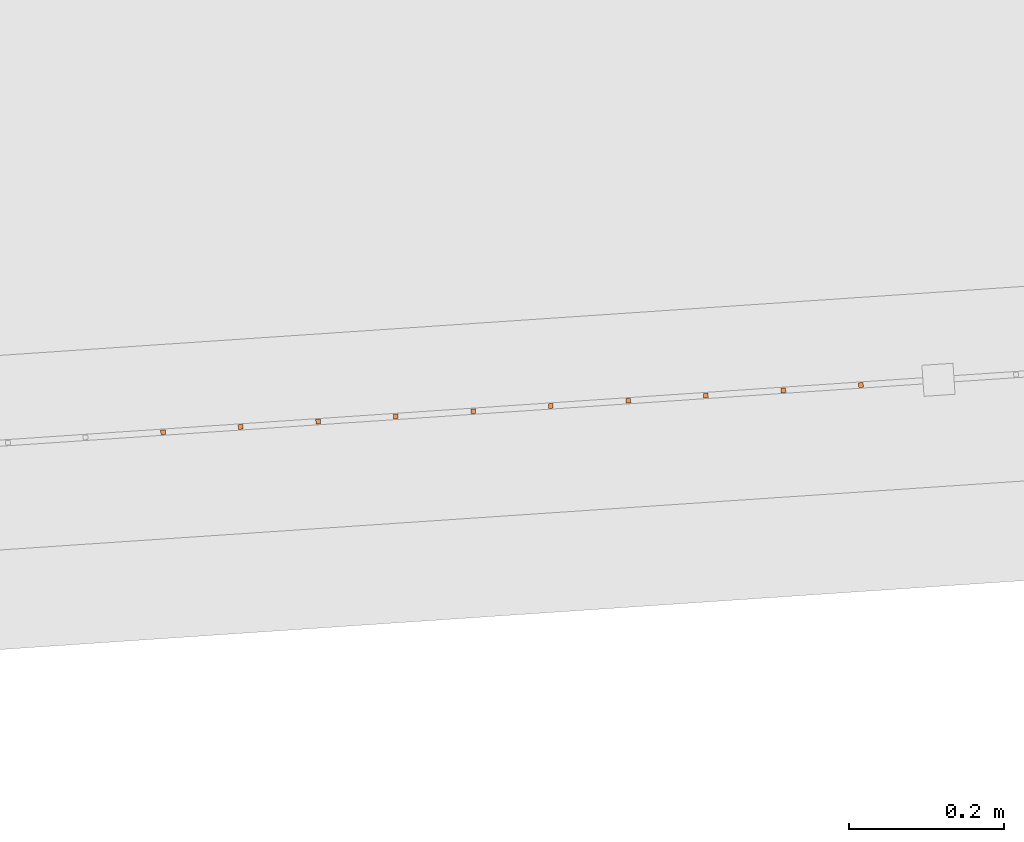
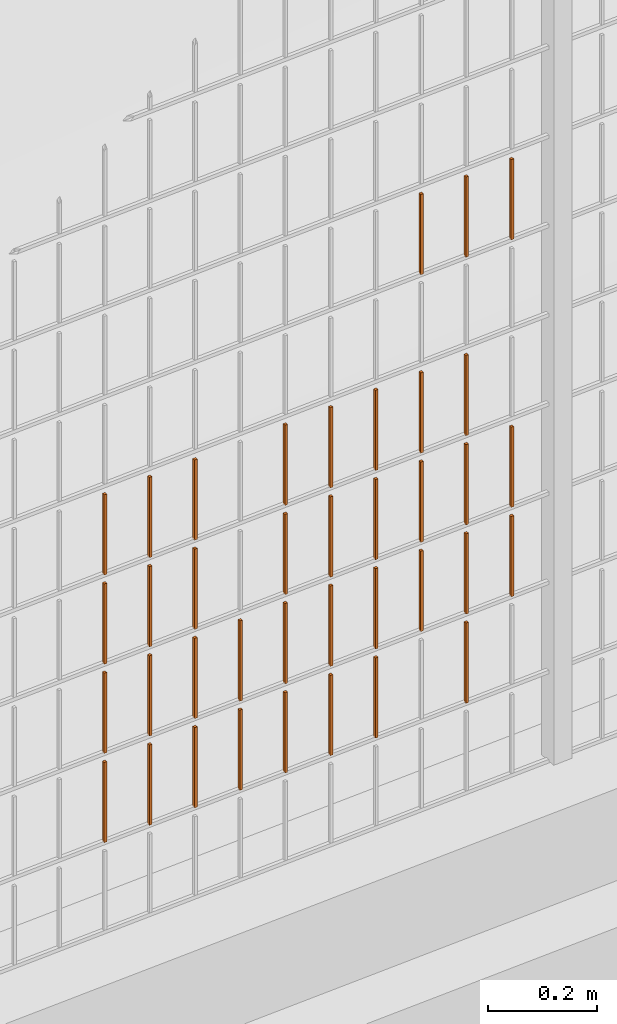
# One storey, part 165 of 1809: 38 proxies, 1 element without a shape of its own.
"""IFC2X3 building model written with IfcOpenShell, lengths in millimetres."""

from ifc_helpers import new_model, entity, si_unit, converted_unit, derived_unit, money_unit, direction, frame, origin_with_axes, place, context, subcontext, project, spatial, faceted_brep, source, transform, mapped, material, type_object, element, aggregate, save


model = new_model("IFC2X3")

# Units and contexts
model_context = context("Model", 3, precision=0.01, world=origin_with_axes(), true_north=direction((0.0, 1.0)))
body_context = subcontext(model_context, "Body", "Model", "MODEL_VIEW")
ifc_project = project(units=[si_unit("LENGTHUNIT", "METRE", prefix="MILLI"), si_unit("AREAUNIT", "SQUARE_METRE"), si_unit("VOLUMEUNIT", "CUBIC_METRE"), converted_unit("PLANEANGLEUNIT", "DEGREE", entity("IfcPlaneAngleMeasure", 0.0174532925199), si_unit("PLANEANGLEUNIT", "RADIAN"), dimensions=[0, 0, 0, 0, 0, 0, 0]), si_unit("SOLIDANGLEUNIT", "STERADIAN"), money_unit("EUR"), converted_unit("TIMEUNIT", "Year", entity("IfcTimeMeasure", 31556926.0), si_unit("TIMEUNIT", "SECOND"), dimensions=[0, 0, 1, 0, 0, 0, 0]), si_unit("MASSUNIT", "GRAM", prefix="KILO"), si_unit("THERMODYNAMICTEMPERATUREUNIT", "DEGREE_CELSIUS"), si_unit("LUMINOUSINTENSITYUNIT", "LUMEN"), si_unit("ENERGYUNIT", "JOULE", prefix="MEGA"), derived_unit("THERMALCONDUCTANCEUNIT", [(si_unit("POWERUNIT", "WATT"), 1), (si_unit("LENGTHUNIT", "METRE"), -1), (si_unit("THERMODYNAMICTEMPERATUREUNIT", "KELVIN"), -1)]), derived_unit("SPECIFICHEATCAPACITYUNIT", [(si_unit("ENERGYUNIT", "JOULE"), 1), (si_unit("MASSUNIT", "GRAM", prefix="KILO"), -1), (si_unit("THERMODYNAMICTEMPERATUREUNIT", "KELVIN"), -1)]), derived_unit("MASSDENSITYUNIT", [(si_unit("MASSUNIT", "GRAM", prefix="KILO"), 1), (si_unit("VOLUMEUNIT", "CUBIC_METRE"), -1)])], contexts=[model_context])

# Site, building, storey
site_placement = place(None, origin_with_axes())
site = spatial("IfcSite", under=ifc_project, at=site_placement, Name="Politse- ja Piirivalveameti ning Päästeameti ühishoone", CompositionType="ELEMENT")
building_placement = place(site_placement, origin_with_axes())
building = spatial("IfcBuilding", under=site, at=building_placement, Name="Politse- ja Piirivalveameti ning Päästeameti ühishoone", CompositionType="ELEMENT")
storey_placement = place(building_placement, origin_with_axes())
storey = spatial("IfcBuildingStorey", under=building, at=storey_placement, Name="Esimene korrus", CompositionType="ELEMENT", Elevation=0.0)

# Proxies
building_element_proxy_type_1 = type_object("IfcBuildingElementProxyType", Name="Railing Type", PredefinedType="NOTDEFINED")
proxy_1_placement = place(storey_placement, frame((89252.001212, -29183.4766571, 203.661247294), z_axis=(0.0, 0.0, 1.0), x_axis=(1.0, 0.0, 0.0)))
proxy_1 = element("IfcBuildingElementProxy", 1, at=proxy_1_placement, inside=storey, type_object=building_element_proxy_type_1, Name="PIIRDEAED")
ifc_material = material(Name="ET-03_Raud")
building_element_proxy_type_2 = type_object("IfcBuildingElementProxyType", Name="IfcBuildingElementProxy", PredefinedType="NOTDEFINED")
shared_shape_1 = source(origin_with_axes(), body_context, "Body", "Brep", [
    faceted_brep([(3.0, 3.0, -0.000752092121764), (-3.0, 3.0, -0.000752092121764), (-3.0, 3.0, 179.99926046), (3.0, 3.0, 179.99926046), (3.0, -3.0, 0.000752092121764), (-3.0, -3.0, 0.000752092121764), (-3.0, -3.0, 180.000764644), (3.0, -3.0, 180.000764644)], [[[0, 1, 2, 3]], [[0, 4, 5, 1]], [[1, 5, 6, 2]], [[3, 2, 6, 7]], [[4, 0, 3, 7]], [[5, 4, 7, 6]]]),
])
proxy_2_placement = place(proxy_1_placement, frame((-77649.7513473, -22542.7224255, 607.723439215), z_axis=(0.0, 0.0, 1.0), x_axis=(1.0, 0.0, 0.0)))
proxy_2 = element("IfcBuildingElementProxy", 2, at=proxy_2_placement, type_object=building_element_proxy_type_2, material=ifc_material, Name="BALUSTER - 001", context=body_context, shape_type="MappedRepresentation", body=[
    mapped(shared_shape_1, transform((0.0, 0.0, 0.0), x_axis=(-0.0673926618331, 0.997726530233, 0.0), y_axis=(-0.997726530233, -0.0673926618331, 0.0), z_axis=(0.0, 0.0, 1.0))),
])
proxy_3_placement = place(proxy_1_placement, frame((-77649.7513473, -22542.7224255, 807.723439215), z_axis=(0.0, 0.0, 1.0), x_axis=(1.0, 0.0, 0.0)))
proxy_3 = element("IfcBuildingElementProxy", 3, at=proxy_3_placement, type_object=building_element_proxy_type_2, material=ifc_material, Name="BALUSTER - 001", context=body_context, shape_type="MappedRepresentation", body=[
    mapped(shared_shape_1, transform((0.0, 0.0, 0.0), x_axis=(-0.0673926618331, 0.997726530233, 0.0), y_axis=(-0.997726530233, -0.0673926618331, 0.0), z_axis=(0.0, 0.0, 1.0))),
])
proxy_4_placement = place(proxy_1_placement, frame((-77250.6607352, -22515.7653608, 1207.82371816), z_axis=(0.0, 0.0, 1.0), x_axis=(1.0, 0.0, 0.0)))
proxy_4 = element("IfcBuildingElementProxy", 4, at=proxy_4_placement, type_object=building_element_proxy_type_2, material=ifc_material, Name="BALUSTER - 001", context=body_context, shape_type="MappedRepresentation", body=[
    mapped(shared_shape_1, transform((0.0, 0.0, 0.0), x_axis=(-0.0673926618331, 0.997726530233, 0.0), y_axis=(-0.997726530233, -0.0673926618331, 0.0), z_axis=(0.0, 0.0, 1.0))),
])
shared_shape_2 = source(origin_with_axes(), body_context, "Body", "Brep", [
    faceted_brep([(3.0, 3.0, -0.000752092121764), (-3.0, 3.0, -0.000752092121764), (-3.0, 3.0, 179.99926046), (3.0, 3.0, 179.99926046), (3.0, -3.0, 0.000752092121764), (-3.0, -3.0, 0.000752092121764), (-3.0, -3.0, 180.000764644), (3.0, -3.0, 180.000764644)], [[[0, 1, 2, 3]], [[0, 4, 5, 1]], [[1, 5, 6, 2]], [[3, 2, 6, 7]], [[4, 0, 3, 7]], [[5, 4, 7, 6]]]),
])
proxy_5_placement = place(proxy_1_placement, frame((-77649.7513473, -22542.7224255, 207.723439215), z_axis=(0.0, 0.0, 1.0), x_axis=(1.0, 0.0, 0.0)))
proxy_5 = element("IfcBuildingElementProxy", 5, at=proxy_5_placement, type_object=building_element_proxy_type_2, material=ifc_material, Name="BALUSTER - 001", context=body_context, shape_type="MappedRepresentation", body=[
    mapped(shared_shape_2, transform((0.0, 0.0, 0.0), x_axis=(-0.0673926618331, 0.997726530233, 0.0), y_axis=(-0.997726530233, -0.0673926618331, 0.0), z_axis=(0.0, 0.0, 1.0))),
])
proxy_6_placement = place(proxy_1_placement, frame((-77649.7513473, -22542.7224255, 407.723439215), z_axis=(0.0, 0.0, 1.0), x_axis=(1.0, 0.0, 0.0)))
proxy_6 = element("IfcBuildingElementProxy", 6, at=proxy_6_placement, type_object=building_element_proxy_type_2, material=ifc_material, Name="BALUSTER - 001", context=body_context, shape_type="MappedRepresentation", body=[
    mapped(shared_shape_2, transform((0.0, 0.0, 0.0), x_axis=(-0.0673926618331, 0.997726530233, 0.0), y_axis=(-0.997726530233, -0.0673926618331, 0.0), z_axis=(0.0, 0.0, 1.0))),
])
shared_shape_3 = source(origin_with_axes(), body_context, "Body", "Brep", [
    faceted_brep([(3.0, 3.0, -0.000752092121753), (-3.0, 3.0, -0.000752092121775), (-3.0, 3.0, 179.99926046), (3.0, 3.0, 179.99926046), (3.0, -3.0, 0.000752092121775), (-3.0, -3.0, 0.000752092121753), (-3.0, -3.0, 180.000764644), (3.0, -3.0, 180.000764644)], [[[0, 1, 2, 3]], [[0, 4, 5, 1]], [[1, 5, 6, 2]], [[3, 2, 6, 7]], [[4, 0, 3, 7]], [[5, 4, 7, 6]]]),
])
proxy_7_placement = place(proxy_1_placement, frame((-78148.6146124, -22576.4187564, 207.598090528), z_axis=(0.0, 0.0, 1.0), x_axis=(1.0, 0.0, 0.0)))
proxy_7 = element("IfcBuildingElementProxy", 7, at=proxy_7_placement, type_object=building_element_proxy_type_2, material=ifc_material, Name="BALUSTER - 001", context=body_context, shape_type="MappedRepresentation", body=[
    mapped(shared_shape_3, transform((0.0, 0.0, 0.0), x_axis=(-0.0673926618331, 0.997726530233, 0.0), y_axis=(-0.997726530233, -0.0673926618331, 0.0), z_axis=(0.0, 0.0, 1.0))),
])
shared_shape_4 = source(origin_with_axes(), body_context, "Body", "Brep", [
    faceted_brep([(3.0, 3.0, -0.000752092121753), (-3.0, 3.0, -0.000752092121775), (-3.0, 3.0, 179.99926046), (3.0, 3.0, 179.99926046), (3.0, -3.0, 0.000752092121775), (-3.0, -3.0, 0.000752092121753), (-3.0, -3.0, 180.000764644), (3.0, -3.0, 180.000764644)], [[[0, 1, 2, 3]], [[0, 4, 5, 1]], [[1, 5, 6, 2]], [[3, 2, 6, 7]], [[4, 0, 3, 7]], [[5, 4, 7, 6]]]),
])
proxy_8_placement = place(proxy_1_placement, frame((-77949.0693064, -22562.9402241, 207.648230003), z_axis=(0.0, 0.0, 1.0), x_axis=(1.0, 0.0, 0.0)))
proxy_8 = element("IfcBuildingElementProxy", 8, at=proxy_8_placement, type_object=building_element_proxy_type_2, material=ifc_material, Name="BALUSTER - 001", context=body_context, shape_type="MappedRepresentation", body=[
    mapped(shared_shape_4, transform((0.0, 0.0, 0.0), x_axis=(-0.0673926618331, 0.997726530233, 0.0), y_axis=(-0.997726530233, -0.0673926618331, 0.0), z_axis=(0.0, 0.0, 1.0))),
])
shared_shape_5 = source(origin_with_axes(), body_context, "Body", "Brep", [
    faceted_brep([(3.0, 3.0, -0.000752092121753), (-3.0, 3.0, -0.000752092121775), (-3.0, 3.0, 179.99926046), (3.0, 3.0, 179.99926046), (3.0, -3.0, 0.000752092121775), (-3.0, -3.0, 0.000752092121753), (-3.0, -3.0, 180.000764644), (3.0, -3.0, 180.000764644)], [[[0, 1, 2, 3]], [[0, 4, 5, 1]], [[1, 5, 6, 2]], [[3, 2, 6, 7]], [[4, 0, 3, 7]], [[5, 4, 7, 6]]]),
])
proxy_9_placement = place(proxy_1_placement, frame((-77350.4333882, -22522.504627, 207.798648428), z_axis=(0.0, 0.0, 1.0), x_axis=(1.0, 0.0, 0.0)))
proxy_9 = element("IfcBuildingElementProxy", 9, at=proxy_9_placement, type_object=building_element_proxy_type_2, material=ifc_material, Name="BALUSTER - 001", context=body_context, shape_type="MappedRepresentation", body=[
    mapped(shared_shape_5, transform((0.0, 0.0, 0.0), x_axis=(-0.0673926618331, 0.997726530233, 0.0), y_axis=(-0.997726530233, -0.0673926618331, 0.0), z_axis=(0.0, 0.0, 1.0))),
])
proxy_10_placement = place(proxy_1_placement, frame((-77350.4333882, -22522.504627, 407.798648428), z_axis=(0.0, 0.0, 1.0), x_axis=(1.0, 0.0, 0.0)))
proxy_10 = element("IfcBuildingElementProxy", 10, at=proxy_10_placement, type_object=building_element_proxy_type_2, material=ifc_material, Name="BALUSTER - 001", context=body_context, shape_type="MappedRepresentation", body=[
    mapped(shared_shape_5, transform((0.0, 0.0, 0.0), x_axis=(-0.0673926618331, 0.997726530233, 0.0), y_axis=(-0.997726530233, -0.0673926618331, 0.0), z_axis=(0.0, 0.0, 1.0))),
])
proxy_11_placement = place(proxy_1_placement, frame((-77350.4333882, -22522.504627, 607.798648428), z_axis=(0.0, 0.0, 1.0), x_axis=(1.0, 0.0, 0.0)))
proxy_11 = element("IfcBuildingElementProxy", 11, at=proxy_11_placement, type_object=building_element_proxy_type_2, material=ifc_material, Name="BALUSTER - 001", context=body_context, shape_type="MappedRepresentation", body=[
    mapped(shared_shape_5, transform((0.0, 0.0, 0.0), x_axis=(-0.0673926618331, 0.997726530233, 0.0), y_axis=(-0.997726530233, -0.0673926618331, 0.0), z_axis=(0.0, 0.0, 1.0))),
])
shared_shape_6 = source(origin_with_axes(), body_context, "Body", "Brep", [
    faceted_brep([(3.0, 3.0, -0.000752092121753), (-3.0, 3.0, -0.000752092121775), (-3.0, 3.0, 179.99926046), (3.0, 3.0, 179.99926046), (3.0, -3.0, 0.000752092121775), (-3.0, -3.0, 0.000752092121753), (-3.0, -3.0, 180.000764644), (3.0, -3.0, 180.000764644)], [[[0, 1, 2, 3]], [[0, 4, 5, 1]], [[1, 5, 6, 2]], [[3, 2, 6, 7]], [[4, 0, 3, 7]], [[5, 4, 7, 6]]]),
])
proxy_12_placement = place(proxy_1_placement, frame((-77350.4333882, -22522.504627, 807.798648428), z_axis=(0.0, 0.0, 1.0), x_axis=(1.0, 0.0, 0.0)))
proxy_12 = element("IfcBuildingElementProxy", 12, at=proxy_12_placement, type_object=building_element_proxy_type_2, material=ifc_material, Name="BALUSTER - 001", context=body_context, shape_type="MappedRepresentation", body=[
    mapped(shared_shape_6, transform((0.0, 0.0, 0.0), x_axis=(-0.0673926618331, 0.997726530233, 0.0), y_axis=(-0.997726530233, -0.0673926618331, 0.0), z_axis=(0.0, 0.0, 1.0))),
])
proxy_13_placement = place(proxy_1_placement, frame((-77350.4333882, -22522.504627, 1207.79864843), z_axis=(0.0, 0.0, 1.0), x_axis=(1.0, 0.0, 0.0)))
proxy_13 = element("IfcBuildingElementProxy", 13, at=proxy_13_placement, type_object=building_element_proxy_type_2, material=ifc_material, Name="BALUSTER - 001", context=body_context, shape_type="MappedRepresentation", body=[
    mapped(shared_shape_6, transform((0.0, 0.0, 0.0), x_axis=(-0.0673926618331, 0.997726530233, 0.0), y_axis=(-0.997726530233, -0.0673926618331, 0.0), z_axis=(0.0, 0.0, 1.0))),
])
shared_shape_7 = source(origin_with_axes(), body_context, "Body", "Brep", [
    faceted_brep([(3.0, 3.0, -0.000752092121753), (-3.0, 3.0, -0.000752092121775), (-3.0, 3.0, 179.99926046), (3.0, 3.0, 179.99926046), (3.0, -3.0, 0.000752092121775), (-3.0, -3.0, 0.000752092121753), (-3.0, -3.0, 180.000764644), (3.0, -3.0, 180.000764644)], [[[0, 1, 2, 3]], [[0, 4, 5, 1]], [[1, 5, 6, 2]], [[3, 2, 6, 7]], [[4, 0, 3, 7]], [[5, 4, 7, 6]]]),
])
proxy_14_placement = place(proxy_1_placement, frame((-78148.6146124, -22576.4187564, 607.598090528), z_axis=(0.0, 0.0, 1.0), x_axis=(1.0, 0.0, 0.0)))
proxy_14 = element("IfcBuildingElementProxy", 14, at=proxy_14_placement, type_object=building_element_proxy_type_2, material=ifc_material, Name="BALUSTER - 001", context=body_context, shape_type="MappedRepresentation", body=[
    mapped(shared_shape_7, transform((0.0, 0.0, 0.0), x_axis=(-0.0673926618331, 0.997726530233, 0.0), y_axis=(-0.997726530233, -0.0673926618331, 0.0), z_axis=(0.0, 0.0, 1.0))),
])
proxy_15_placement = place(proxy_1_placement, frame((-77549.9786943, -22535.9831593, 807.748508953), z_axis=(0.0, 0.0, 1.0), x_axis=(1.0, 0.0, 0.0)))
proxy_15 = element("IfcBuildingElementProxy", 15, at=proxy_15_placement, type_object=building_element_proxy_type_2, material=ifc_material, Name="BALUSTER - 001", context=body_context, shape_type="MappedRepresentation", body=[
    mapped(shared_shape_7, transform((0.0, 0.0, 0.0), x_axis=(-0.0673926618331, 0.997726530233, 0.0), y_axis=(-0.997726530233, -0.0673926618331, 0.0), z_axis=(0.0, 0.0, 1.0))),
])
proxy_16_placement = place(proxy_1_placement, frame((-77949.0693064, -22562.9402241, 807.648230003), z_axis=(0.0, 0.0, 1.0), x_axis=(1.0, 0.0, 0.0)))
proxy_16 = element("IfcBuildingElementProxy", 16, at=proxy_16_placement, type_object=building_element_proxy_type_2, material=ifc_material, Name="BALUSTER - 001", context=body_context, shape_type="MappedRepresentation", body=[
    mapped(shared_shape_7, transform((0.0, 0.0, 0.0), x_axis=(-0.0673926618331, 0.997726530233, 0.0), y_axis=(-0.997726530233, -0.0673926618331, 0.0), z_axis=(0.0, 0.0, 1.0))),
])
shared_shape_8 = source(origin_with_axes(), body_context, "Body", "Brep", [
    faceted_brep([(3.0, 3.0, -0.000752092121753), (-3.0, 3.0, -0.000752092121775), (-3.0, 3.0, 179.99926046), (3.0, 3.0, 179.99926046), (3.0, -3.0, 0.000752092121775), (-3.0, -3.0, 0.000752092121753), (-3.0, -3.0, 180.000764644), (3.0, -3.0, 180.000764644)], [[[0, 1, 2, 3]], [[0, 4, 5, 1]], [[1, 5, 6, 2]], [[3, 2, 6, 7]], [[4, 0, 3, 7]], [[5, 4, 7, 6]]]),
])
proxy_17_placement = place(proxy_1_placement, frame((-77549.9786943, -22535.9831593, 607.748508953), z_axis=(0.0, 0.0, 1.0), x_axis=(1.0, 0.0, 0.0)))
proxy_17 = element("IfcBuildingElementProxy", 17, at=proxy_17_placement, type_object=building_element_proxy_type_2, material=ifc_material, Name="BALUSTER - 001", context=body_context, shape_type="MappedRepresentation", body=[
    mapped(shared_shape_8, transform((0.0, 0.0, 0.0), x_axis=(-0.0673926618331, 0.997726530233, 0.0), y_axis=(-0.997726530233, -0.0673926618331, 0.0), z_axis=(0.0, 0.0, 1.0))),
])
shared_shape_9 = source(origin_with_axes(), body_context, "Body", "Brep", [
    faceted_brep([(3.0, 3.0, -0.000752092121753), (-3.0, 3.0, -0.000752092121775), (-3.0, 3.0, 179.99926046), (3.0, 3.0, 179.99926046), (3.0, -3.0, 0.000752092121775), (-3.0, -3.0, 0.000752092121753), (-3.0, -3.0, 180.000764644), (3.0, -3.0, 180.000764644)], [[[0, 1, 2, 3]], [[0, 4, 5, 1]], [[1, 5, 6, 2]], [[3, 2, 6, 7]], [[4, 0, 3, 7]], [[5, 4, 7, 6]]]),
])
proxy_18_placement = place(proxy_1_placement, frame((-78148.6146124, -22576.4187564, 807.598090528), z_axis=(0.0, 0.0, 1.0), x_axis=(1.0, 0.0, 0.0)))
proxy_18 = element("IfcBuildingElementProxy", 18, at=proxy_18_placement, type_object=building_element_proxy_type_2, material=ifc_material, Name="BALUSTER - 001", context=body_context, shape_type="MappedRepresentation", body=[
    mapped(shared_shape_9, transform((0.0, 0.0, 0.0), x_axis=(-0.0673926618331, 0.997726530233, 0.0), y_axis=(-0.997726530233, -0.0673926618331, 0.0), z_axis=(0.0, 0.0, 1.0))),
])
shared_shape_10 = source(origin_with_axes(), body_context, "Body", "Brep", [
    faceted_brep([(3.0, 3.0, -0.000752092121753), (-3.0, 3.0, -0.000752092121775), (-3.0, 3.0, 179.99926046), (3.0, 3.0, 179.99926046), (3.0, -3.0, 0.000752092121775), (-3.0, -3.0, 0.000752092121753), (-3.0, -3.0, 180.000764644), (3.0, -3.0, 180.000764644)], [[[0, 1, 2, 3]], [[0, 4, 5, 1]], [[1, 5, 6, 2]], [[3, 2, 6, 7]], [[4, 0, 3, 7]], [[5, 4, 7, 6]]]),
])
proxy_19_placement = place(proxy_1_placement, frame((-77549.9786943, -22535.9831593, 207.748508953), z_axis=(0.0, 0.0, 1.0), x_axis=(1.0, 0.0, 0.0)))
proxy_19 = element("IfcBuildingElementProxy", 19, at=proxy_19_placement, type_object=building_element_proxy_type_2, material=ifc_material, Name="BALUSTER - 001", context=body_context, shape_type="MappedRepresentation", body=[
    mapped(shared_shape_10, transform((0.0, 0.0, 0.0), x_axis=(-0.0673926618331, 0.997726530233, 0.0), y_axis=(-0.997726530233, -0.0673926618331, 0.0), z_axis=(0.0, 0.0, 1.0))),
])
shared_shape_11 = source(origin_with_axes(), body_context, "Body", "Brep", [
    faceted_brep([(3.0, 3.0, -0.000752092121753), (-3.0, 3.0, -0.000752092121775), (-3.0, 3.0, 179.99926046), (3.0, 3.0, 179.99926046), (3.0, -3.0, 0.000752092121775), (-3.0, -3.0, 0.000752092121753), (-3.0, -3.0, 180.000764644), (3.0, -3.0, 180.000764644)], [[[0, 1, 2, 3]], [[0, 4, 5, 1]], [[1, 5, 6, 2]], [[3, 2, 6, 7]], [[4, 0, 3, 7]], [[5, 4, 7, 6]]]),
])
proxy_20_placement = place(proxy_1_placement, frame((-77549.9786943, -22535.9831593, 407.748508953), z_axis=(0.0, 0.0, 1.0), x_axis=(1.0, 0.0, 0.0)))
proxy_20 = element("IfcBuildingElementProxy", 20, at=proxy_20_placement, type_object=building_element_proxy_type_2, material=ifc_material, Name="BALUSTER - 001", context=body_context, shape_type="MappedRepresentation", body=[
    mapped(shared_shape_11, transform((0.0, 0.0, 0.0), x_axis=(-0.0673926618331, 0.997726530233, 0.0), y_axis=(-0.997726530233, -0.0673926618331, 0.0), z_axis=(0.0, 0.0, 1.0))),
])
proxy_21_placement = place(proxy_1_placement, frame((-77949.0693064, -22562.9402241, 407.648230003), z_axis=(0.0, 0.0, 1.0), x_axis=(1.0, 0.0, 0.0)))
proxy_21 = element("IfcBuildingElementProxy", 21, at=proxy_21_placement, type_object=building_element_proxy_type_2, material=ifc_material, Name="BALUSTER - 001", context=body_context, shape_type="MappedRepresentation", body=[
    mapped(shared_shape_11, transform((0.0, 0.0, 0.0), x_axis=(-0.0673926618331, 0.997726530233, 0.0), y_axis=(-0.997726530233, -0.0673926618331, 0.0), z_axis=(0.0, 0.0, 1.0))),
])
proxy_22_placement = place(proxy_1_placement, frame((-78148.6146124, -22576.4187564, 407.598090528), z_axis=(0.0, 0.0, 1.0), x_axis=(1.0, 0.0, 0.0)))
proxy_22 = element("IfcBuildingElementProxy", 22, at=proxy_22_placement, type_object=building_element_proxy_type_2, material=ifc_material, Name="BALUSTER - 001", context=body_context, shape_type="MappedRepresentation", body=[
    mapped(shared_shape_11, transform((0.0, 0.0, 0.0), x_axis=(-0.0673926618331, 0.997726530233, 0.0), y_axis=(-0.997726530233, -0.0673926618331, 0.0), z_axis=(0.0, 0.0, 1.0))),
])
proxy_23_placement = place(proxy_1_placement, frame((-77949.0693064, -22562.9402241, 607.648230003), z_axis=(0.0, 0.0, 1.0), x_axis=(1.0, 0.0, 0.0)))
proxy_23 = element("IfcBuildingElementProxy", 23, at=proxy_23_placement, type_object=building_element_proxy_type_2, material=ifc_material, Name="BALUSTER - 001", context=body_context, shape_type="MappedRepresentation", body=[
    mapped(shared_shape_11, transform((0.0, 0.0, 0.0), x_axis=(-0.0673926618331, 0.997726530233, 0.0), y_axis=(-0.997726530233, -0.0673926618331, 0.0), z_axis=(0.0, 0.0, 1.0))),
])
shared_shape_12 = source(origin_with_axes(), body_context, "Body", "Brep", [
    faceted_brep([(3.0, 3.0, -0.000752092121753), (-3.0, 3.0, -0.000752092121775), (-3.0, 3.0, 179.99926046), (3.0, 3.0, 179.99926046), (3.0, -3.0, 0.000752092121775), (-3.0, -3.0, 0.000752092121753), (-3.0, -3.0, 180.000764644), (3.0, -3.0, 180.000764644)], [[[0, 1, 2, 3]], [[0, 4, 5, 1]], [[1, 5, 6, 2]], [[3, 2, 6, 7]], [[4, 0, 3, 7]], [[5, 4, 7, 6]]]),
])
proxy_24_placement = place(proxy_1_placement, frame((-78048.8419594, -22569.6794903, 407.623160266), z_axis=(0.0, 0.0, 1.0), x_axis=(1.0, 0.0, 0.0)))
proxy_24 = element("IfcBuildingElementProxy", 24, at=proxy_24_placement, type_object=building_element_proxy_type_2, material=ifc_material, Name="BALUSTER - 001", context=body_context, shape_type="MappedRepresentation", body=[
    mapped(shared_shape_12, transform((0.0, 0.0, 0.0), x_axis=(-0.0673926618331, 0.997726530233, 0.0), y_axis=(-0.997726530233, -0.0673926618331, 0.0), z_axis=(0.0, 0.0, 1.0))),
])
proxy_25_placement = place(proxy_1_placement, frame((-78048.8419594, -22569.6794903, 607.623160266), z_axis=(0.0, 0.0, 1.0), x_axis=(1.0, 0.0, 0.0)))
proxy_25 = element("IfcBuildingElementProxy", 25, at=proxy_25_placement, type_object=building_element_proxy_type_2, material=ifc_material, Name="BALUSTER - 001", context=body_context, shape_type="MappedRepresentation", body=[
    mapped(shared_shape_12, transform((0.0, 0.0, 0.0), x_axis=(-0.0673926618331, 0.997726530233, 0.0), y_axis=(-0.997726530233, -0.0673926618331, 0.0), z_axis=(0.0, 0.0, 1.0))),
])
shared_shape_13 = source(origin_with_axes(), body_context, "Body", "Brep", [
    faceted_brep([(3.0, 3.0, -0.000752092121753), (-3.0, 3.0, -0.000752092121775), (-3.0, 3.0, 179.99926046), (3.0, 3.0, 179.99926046), (3.0, -3.0, 0.000752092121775), (-3.0, -3.0, 0.000752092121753), (-3.0, -3.0, 180.000764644), (3.0, -3.0, 180.000764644)], [[[0, 1, 2, 3]], [[0, 4, 5, 1]], [[1, 5, 6, 2]], [[3, 2, 6, 7]], [[4, 0, 3, 7]], [[5, 4, 7, 6]]]),
])
proxy_26_placement = place(proxy_1_placement, frame((-78048.8419594, -22569.6794903, 807.623160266), z_axis=(0.0, 0.0, 1.0), x_axis=(1.0, 0.0, 0.0)))
proxy_26 = element("IfcBuildingElementProxy", 26, at=proxy_26_placement, type_object=building_element_proxy_type_2, material=ifc_material, Name="BALUSTER - 001", context=body_context, shape_type="MappedRepresentation", body=[
    mapped(shared_shape_13, transform((0.0, 0.0, 0.0), x_axis=(-0.0673926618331, 0.997726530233, 0.0), y_axis=(-0.997726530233, -0.0673926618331, 0.0), z_axis=(0.0, 0.0, 1.0))),
])
shared_shape_14 = source(origin_with_axes(), body_context, "Body", "Brep", [
    faceted_brep([(3.0, 3.0, -0.000752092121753), (-3.0, 3.0, -0.000752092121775), (-3.0, 3.0, 179.99926046), (3.0, 3.0, 179.99926046), (3.0, -3.0, 0.000752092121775), (-3.0, -3.0, 0.000752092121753), (-3.0, -3.0, 180.000764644), (3.0, -3.0, 180.000764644)], [[[0, 1, 2, 3]], [[0, 4, 5, 1]], [[1, 5, 6, 2]], [[3, 2, 6, 7]], [[4, 0, 3, 7]], [[5, 4, 7, 6]]]),
])
proxy_27_placement = place(proxy_1_placement, frame((-77749.5240003, -22549.4616917, 807.698369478), z_axis=(0.0, 0.0, 1.0), x_axis=(1.0, 0.0, 0.0)))
proxy_27 = element("IfcBuildingElementProxy", 27, at=proxy_27_placement, type_object=building_element_proxy_type_2, material=ifc_material, Name="BALUSTER - 001", context=body_context, shape_type="MappedRepresentation", body=[
    mapped(shared_shape_14, transform((0.0, 0.0, 0.0), x_axis=(-0.0673926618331, 0.997726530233, 0.0), y_axis=(-0.997726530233, -0.0673926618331, 0.0), z_axis=(0.0, 0.0, 1.0))),
])
shared_shape_15 = source(origin_with_axes(), body_context, "Body", "Brep", [
    faceted_brep([(3.0, 3.0, -0.000752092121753), (-3.0, 3.0, -0.000752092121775), (-3.0, 3.0, 179.99926046), (3.0, 3.0, 179.99926046), (3.0, -3.0, 0.000752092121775), (-3.0, -3.0, 0.000752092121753), (-3.0, -3.0, 180.000764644), (3.0, -3.0, 180.000764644)], [[[0, 1, 2, 3]], [[0, 4, 5, 1]], [[1, 5, 6, 2]], [[3, 2, 6, 7]], [[4, 0, 3, 7]], [[5, 4, 7, 6]]]),
])
proxy_28_placement = place(proxy_1_placement, frame((-77749.5240003, -22549.4616917, 207.698369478), z_axis=(0.0, 0.0, 1.0), x_axis=(1.0, 0.0, 0.0)))
proxy_28 = element("IfcBuildingElementProxy", 28, at=proxy_28_placement, type_object=building_element_proxy_type_2, material=ifc_material, Name="BALUSTER - 001", context=body_context, shape_type="MappedRepresentation", body=[
    mapped(shared_shape_15, transform((0.0, 0.0, 0.0), x_axis=(-0.0673926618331, 0.997726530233, 0.0), y_axis=(-0.997726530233, -0.0673926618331, 0.0), z_axis=(0.0, 0.0, 1.0))),
])
proxy_29_placement = place(proxy_1_placement, frame((-77749.5240003, -22549.4616917, 607.698369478), z_axis=(0.0, 0.0, 1.0), x_axis=(1.0, 0.0, 0.0)))
proxy_29 = element("IfcBuildingElementProxy", 29, at=proxy_29_placement, type_object=building_element_proxy_type_2, material=ifc_material, Name="BALUSTER - 001", context=body_context, shape_type="MappedRepresentation", body=[
    mapped(shared_shape_15, transform((0.0, 0.0, 0.0), x_axis=(-0.0673926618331, 0.997726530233, 0.0), y_axis=(-0.997726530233, -0.0673926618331, 0.0), z_axis=(0.0, 0.0, 1.0))),
])
shared_shape_16 = source(origin_with_axes(), body_context, "Body", "Brep", [
    faceted_brep([(3.0, 3.0, -0.000752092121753), (-3.0, 3.0, -0.000752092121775), (-3.0, 3.0, 179.99926046), (3.0, 3.0, 179.99926046), (3.0, -3.0, 0.000752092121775), (-3.0, -3.0, 0.000752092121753), (-3.0, -3.0, 180.000764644), (3.0, -3.0, 180.000764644)], [[[0, 1, 2, 3]], [[0, 4, 5, 1]], [[1, 5, 6, 2]], [[3, 2, 6, 7]], [[4, 0, 3, 7]], [[5, 4, 7, 6]]]),
])
proxy_30_placement = place(proxy_1_placement, frame((-77749.5240003, -22549.4616917, 407.698369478), z_axis=(0.0, 0.0, 1.0), x_axis=(1.0, 0.0, 0.0)))
proxy_30 = element("IfcBuildingElementProxy", 30, at=proxy_30_placement, type_object=building_element_proxy_type_2, material=ifc_material, Name="BALUSTER - 001", context=body_context, shape_type="MappedRepresentation", body=[
    mapped(shared_shape_16, transform((0.0, 0.0, 0.0), x_axis=(-0.0673926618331, 0.997726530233, 0.0), y_axis=(-0.997726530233, -0.0673926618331, 0.0), z_axis=(0.0, 0.0, 1.0))),
])
shared_shape_17 = source(origin_with_axes(), body_context, "Body", "Brep", [
    faceted_brep([(3.0, 3.0, -0.000752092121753), (-3.0, 3.0, -0.000752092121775), (-3.0, 3.0, 179.99926046), (3.0, 3.0, 179.99926046), (3.0, -3.0, 0.000752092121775), (-3.0, -3.0, 0.000752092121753), (-3.0, -3.0, 180.000764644), (3.0, -3.0, 180.000764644)], [[[0, 1, 2, 3]], [[0, 4, 5, 1]], [[1, 5, 6, 2]], [[3, 2, 6, 7]], [[4, 0, 3, 7]], [[5, 4, 7, 6]]]),
])
proxy_31_placement = place(proxy_1_placement, frame((-78048.8419594, -22569.6794903, 207.623160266), z_axis=(0.0, 0.0, 1.0), x_axis=(1.0, 0.0, 0.0)))
proxy_31 = element("IfcBuildingElementProxy", 31, at=proxy_31_placement, type_object=building_element_proxy_type_2, material=ifc_material, Name="BALUSTER - 001", context=body_context, shape_type="MappedRepresentation", body=[
    mapped(shared_shape_17, transform((0.0, 0.0, 0.0), x_axis=(-0.0673926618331, 0.997726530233, 0.0), y_axis=(-0.997726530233, -0.0673926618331, 0.0), z_axis=(0.0, 0.0, 1.0))),
])
shared_shape_18 = source(origin_with_axes(), body_context, "Body", "Brep", [
    faceted_brep([(3.0, 3.0, -0.000752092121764), (-3.0, 3.0, -0.000752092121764), (-3.0, 3.0, 179.99926046), (3.0, 3.0, 179.99926046), (3.0, -3.0, 0.000752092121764), (-3.0, -3.0, 0.000752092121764), (-3.0, -3.0, 180.000764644), (3.0, -3.0, 180.000764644)], [[[0, 1, 2, 3]], [[0, 4, 5, 1]], [[1, 5, 6, 2]], [[3, 2, 6, 7]], [[4, 0, 3, 7]], [[5, 4, 7, 6]]]),
])
proxy_32_placement = place(proxy_1_placement, frame((-77849.2966534, -22556.2009579, 207.673299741), z_axis=(0.0, 0.0, 1.0), x_axis=(1.0, 0.0, 0.0)))
proxy_32 = element("IfcBuildingElementProxy", 32, at=proxy_32_placement, type_object=building_element_proxy_type_2, material=ifc_material, Name="BALUSTER - 001", context=body_context, shape_type="MappedRepresentation", body=[
    mapped(shared_shape_18, transform((0.0, 0.0, 0.0), x_axis=(-0.0673926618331, 0.997726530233, 0.0), y_axis=(-0.997726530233, -0.0673926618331, 0.0), z_axis=(0.0, 0.0, 1.0))),
])
proxy_33_placement = place(proxy_1_placement, frame((-77849.2966534, -22556.2009579, 407.673299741), z_axis=(0.0, 0.0, 1.0), x_axis=(1.0, 0.0, 0.0)))
proxy_33 = element("IfcBuildingElementProxy", 33, at=proxy_33_placement, type_object=building_element_proxy_type_2, material=ifc_material, Name="BALUSTER - 001", context=body_context, shape_type="MappedRepresentation", body=[
    mapped(shared_shape_18, transform((0.0, 0.0, 0.0), x_axis=(-0.0673926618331, 0.997726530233, 0.0), y_axis=(-0.997726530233, -0.0673926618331, 0.0), z_axis=(0.0, 0.0, 1.0))),
])
shared_shape_19 = source(origin_with_axes(), body_context, "Body", "Brep", [
    faceted_brep([(3.0, 3.0, -0.000752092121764), (-3.0, 3.0, -0.000752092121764), (-3.0, 3.0, 179.99926046), (3.0, 3.0, 179.99926046), (3.0, -3.0, 0.000752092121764), (-3.0, -3.0, 0.000752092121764), (-3.0, -3.0, 180.000764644), (3.0, -3.0, 180.000764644)], [[[0, 1, 2, 3]], [[0, 4, 5, 1]], [[1, 5, 6, 2]], [[3, 2, 6, 7]], [[4, 0, 3, 7]], [[5, 4, 7, 6]]]),
])
proxy_34_placement = place(proxy_1_placement, frame((-77250.6607352, -22515.7653608, 407.823718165), z_axis=(0.0, 0.0, 1.0), x_axis=(1.0, 0.0, 0.0)))
proxy_34 = element("IfcBuildingElementProxy", 34, at=proxy_34_placement, type_object=building_element_proxy_type_2, material=ifc_material, Name="BALUSTER - 001", context=body_context, shape_type="MappedRepresentation", body=[
    mapped(shared_shape_19, transform((0.0, 0.0, 0.0), x_axis=(-0.0673926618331, 0.997726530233, 0.0), y_axis=(-0.997726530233, -0.0673926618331, 0.0), z_axis=(0.0, 0.0, 1.0))),
])
proxy_35_placement = place(proxy_1_placement, frame((-77250.6607352, -22515.7653608, 607.823718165), z_axis=(0.0, 0.0, 1.0), x_axis=(1.0, 0.0, 0.0)))
proxy_35 = element("IfcBuildingElementProxy", 35, at=proxy_35_placement, type_object=building_element_proxy_type_2, material=ifc_material, Name="BALUSTER - 001", context=body_context, shape_type="MappedRepresentation", body=[
    mapped(shared_shape_19, transform((0.0, 0.0, 0.0), x_axis=(-0.0673926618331, 0.997726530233, 0.0), y_axis=(-0.997726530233, -0.0673926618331, 0.0), z_axis=(0.0, 0.0, 1.0))),
])
shared_shape_20 = source(origin_with_axes(), body_context, "Body", "Brep", [
    faceted_brep([(3.0, 3.0, -0.000752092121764), (-3.0, 3.0, -0.000752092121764), (-3.0, 3.0, 179.99926046), (3.0, 3.0, 179.99926046), (3.0, -3.0, 0.000752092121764), (-3.0, -3.0, 0.000752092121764), (-3.0, -3.0, 180.000764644), (3.0, -3.0, 180.000764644)], [[[0, 1, 2, 3]], [[0, 4, 5, 1]], [[1, 5, 6, 2]], [[3, 2, 6, 7]], [[4, 0, 3, 7]], [[5, 4, 7, 6]]]),
])
proxy_36_placement = place(proxy_1_placement, frame((-77450.2060413, -22529.2438932, 407.77357869), z_axis=(0.0, 0.0, 1.0), x_axis=(1.0, 0.0, 0.0)))
proxy_36 = element("IfcBuildingElementProxy", 36, at=proxy_36_placement, type_object=building_element_proxy_type_2, material=ifc_material, Name="BALUSTER - 001", context=body_context, shape_type="MappedRepresentation", body=[
    mapped(shared_shape_20, transform((0.0, 0.0, 0.0), x_axis=(-0.0673926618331, 0.997726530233, 0.0), y_axis=(-0.997726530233, -0.0673926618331, 0.0), z_axis=(0.0, 0.0, 1.0))),
])
shared_shape_21 = source(origin_with_axes(), body_context, "Body", "Brep", [
    faceted_brep([(3.0, 3.0, -0.000752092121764), (-3.0, 3.0, -0.000752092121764), (-3.0, 3.0, 179.99926046), (3.0, 3.0, 179.99926046), (3.0, -3.0, 0.000752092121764), (-3.0, -3.0, 0.000752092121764), (-3.0, -3.0, 180.000764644), (3.0, -3.0, 180.000764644)], [[[0, 1, 2, 3]], [[0, 4, 5, 1]], [[1, 5, 6, 2]], [[3, 2, 6, 7]], [[4, 0, 3, 7]], [[5, 4, 7, 6]]]),
])
proxy_37_placement = place(proxy_1_placement, frame((-77450.2060413, -22529.2438932, 607.77357869), z_axis=(0.0, 0.0, 1.0), x_axis=(1.0, 0.0, 0.0)))
proxy_37 = element("IfcBuildingElementProxy", 37, at=proxy_37_placement, type_object=building_element_proxy_type_2, material=ifc_material, Name="BALUSTER - 001", context=body_context, shape_type="MappedRepresentation", body=[
    mapped(shared_shape_21, transform((0.0, 0.0, 0.0), x_axis=(-0.0673926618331, 0.997726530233, 0.0), y_axis=(-0.997726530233, -0.0673926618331, 0.0), z_axis=(0.0, 0.0, 1.0))),
])
shared_shape_22 = source(origin_with_axes(), body_context, "Body", "Brep", [
    faceted_brep([(3.0, 3.0, -0.000752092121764), (-3.0, 3.0, -0.000752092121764), (-3.0, 3.0, 179.99926046), (3.0, 3.0, 179.99926046), (3.0, -3.0, 0.000752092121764), (-3.0, -3.0, 0.000752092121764), (-3.0, -3.0, 180.000764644), (3.0, -3.0, 180.000764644)], [[[0, 1, 2, 3]], [[0, 4, 5, 1]], [[1, 5, 6, 2]], [[3, 2, 6, 7]], [[4, 0, 3, 7]], [[5, 4, 7, 6]]]),
])
proxy_38_placement = place(proxy_1_placement, frame((-77450.2060413, -22529.2438932, 807.77357869), z_axis=(0.0, 0.0, 1.0), x_axis=(1.0, 0.0, 0.0)))
proxy_38 = element("IfcBuildingElementProxy", 38, at=proxy_38_placement, type_object=building_element_proxy_type_2, material=ifc_material, Name="BALUSTER - 001", context=body_context, shape_type="MappedRepresentation", body=[
    mapped(shared_shape_22, transform((0.0, 0.0, 0.0), x_axis=(-0.0673926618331, 0.997726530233, 0.0), y_axis=(-0.997726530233, -0.0673926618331, 0.0), z_axis=(0.0, 0.0, 1.0))),
])
shared_shape_23 = source(origin_with_axes(), body_context, "Body", "Brep", [
    faceted_brep([(3.0, 3.0, -0.000752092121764), (-3.0, 3.0, -0.000752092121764), (-3.0, 3.0, 179.99926046), (3.0, 3.0, 179.99926046), (3.0, -3.0, 0.000752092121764), (-3.0, -3.0, 0.000752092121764), (-3.0, -3.0, 180.000764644), (3.0, -3.0, 180.000764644)], [[[0, 1, 2, 3]], [[0, 4, 5, 1]], [[1, 5, 6, 2]], [[3, 2, 6, 7]], [[4, 0, 3, 7]], [[5, 4, 7, 6]]]),
])
proxy_39_placement = place(proxy_1_placement, frame((-77450.2060413, -22529.2438932, 1207.77357869), z_axis=(0.0, 0.0, 1.0), x_axis=(1.0, 0.0, 0.0)))
proxy_39 = element("IfcBuildingElementProxy", 39, at=proxy_39_placement, type_object=building_element_proxy_type_2, material=ifc_material, Name="BALUSTER - 001", context=body_context, shape_type="MappedRepresentation", body=[
    mapped(shared_shape_23, transform((0.0, 0.0, 0.0), x_axis=(-0.0673926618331, 0.997726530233, 0.0), y_axis=(-0.997726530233, -0.0673926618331, 0.0), z_axis=(0.0, 0.0, 1.0))),
])
aggregate(proxy_1, [proxy_9, proxy_19, proxy_5, proxy_28, proxy_32, proxy_8, proxy_31, proxy_7, proxy_34, proxy_10, proxy_36, proxy_20, proxy_6, proxy_30, proxy_33, proxy_21, proxy_24, proxy_22, proxy_35, proxy_11, proxy_37, proxy_17, proxy_2, proxy_29, proxy_23, proxy_25, proxy_14, proxy_12, proxy_38, proxy_15, proxy_3, proxy_27, proxy_16, proxy_26, proxy_18, proxy_4, proxy_13, proxy_39])

save(model, "model.ifc")
